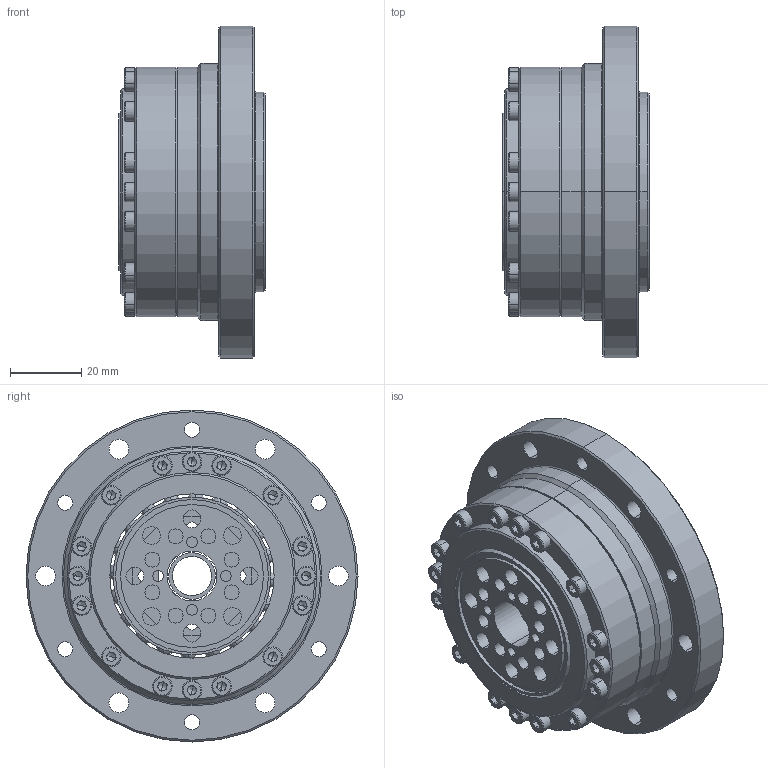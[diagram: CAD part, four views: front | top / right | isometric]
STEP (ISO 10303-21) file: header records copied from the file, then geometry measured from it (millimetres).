
FILE_DESCRIPTION (( 'STEP AP203' ), '1' );
FILE_NAME ('BCS-20-XXX-U-¢ñ.STEP', '2019-01-15T03:18:06', ( 'User' ), ( 'China' ), 'SwSTEP 2.0', 'SolidWorks 2015', '' );
FILE_SCHEMA (( 'CONFIG_CONTROL_DESIGN' ));
Length unit declared in the file: millimetre
Products named in the file (1): BCS-20-XXX-U-ｉ
Bounding box: 41 x 93 x 93 mm (x, y, z)
Surface area: 65453.3 mm2 (no closed solid volume)
Topology: 0 solids, 46 shells, 683 faces, 1955 edges, 1235 vertices
Faces by surface type: cylinder 211, plane 203, cone 173, torus 52, sphere 40, bspline 4
Entity records: 23573 total; most frequent: CARTESIAN_POINT 6072, DIRECTION 3965, ORIENTED_EDGE 3200, EDGE_CURVE 1823, AXIS2_PLACEMENT_3D 1599, VERTEX_POINT 1175, CIRCLE 919, EDGE_LOOP 832
